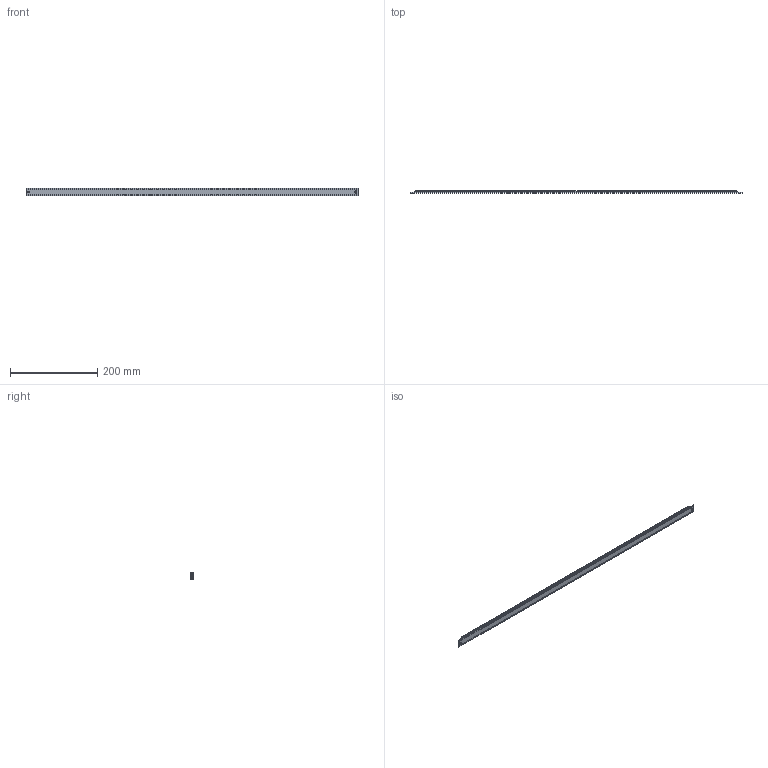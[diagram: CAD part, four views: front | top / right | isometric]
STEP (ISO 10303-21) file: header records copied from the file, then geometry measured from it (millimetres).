
FILE_DESCRIPTION (( 'STEP AP214' ), '1' );
FILE_NAME ('HLMScale.ScaleLength760.STEP', '2023-02-07T05:55:52', ( '' ), ( '' ), 'SwSTEP 2.0', 'SolidWorks 2020', '' );
FILE_SCHEMA (( 'AUTOMOTIVE_DESIGN' ));
Length unit declared in the file: millimetre
Products named in the file (1): HLMScale.ScaleLength760
Bounding box: 760 x 6.08 x 18 mm (x, y, z)
Volume: 75887.3 mm3; surface area: 41901.6 mm2
Topology: 1 solids, 1 shells, 56 faces, 149 edges, 98 vertices
Faces by surface type: plane 31, cylinder 25
Entity records: 1857 total; most frequent: CARTESIAN_POINT 412, ORIENTED_EDGE 298, DIRECTION 285, EDGE_CURVE 149, LINE 103, VECTOR 103, VERTEX_POINT 98, AXIS2_PLACEMENT_3D 91
